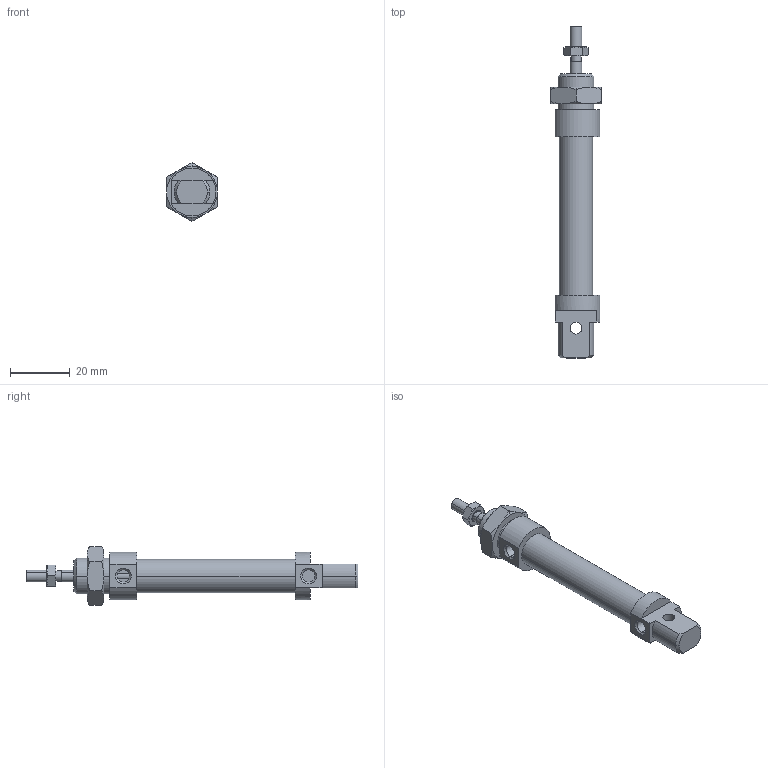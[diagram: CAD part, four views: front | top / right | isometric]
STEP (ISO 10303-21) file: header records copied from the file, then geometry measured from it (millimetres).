
FILE_DESCRIPTION((''),'2;1');
FILE_NAME('I:\DOC-EDP\Lib-3d\1200\CILINDRI\1280\1280_10_0025.stp','2003-04-07T14:45:37',('maffial1'),(''),'Autodesk Inventor (R) 6.0','Autodesk Inventor (R) 6.0','');
FILE_SCHEMA(('AUTOMOTIVE_DESIGN { 1 0 10303 214 1 1 1 1 }'));
Length unit declared in the file: millimetre
Products named in the file (5): 1280_10_0025; S1280_10_25; 1200_10_05; 1200_10_06; C1280_10_25
Assembly tree (4 placements, depth 2):
  1280_10_0025
    S1280_10_25
    1200_10_05
    1200_10_06
    C1280_10_25
Bounding box: 17 x 111 x 19.63 mm (x, y, z)
Volume: 11720.5 mm3; surface area: 6686.5 mm2
Topology: 4 solids, 4 shells, 117 faces, 261 edges, 158 vertices
Faces by surface type: cone 40, plane 34, cylinder 22, bspline 21
Entity records: 3582 total; most frequent: CARTESIAN_POINT 992, DIRECTION 531, ORIENTED_EDGE 522, EDGE_CURVE 261, AXIS2_PLACEMENT_3D 221, VERTEX_POINT 158, EDGE_LOOP 131, FACE_OUTER_BOUND 117
